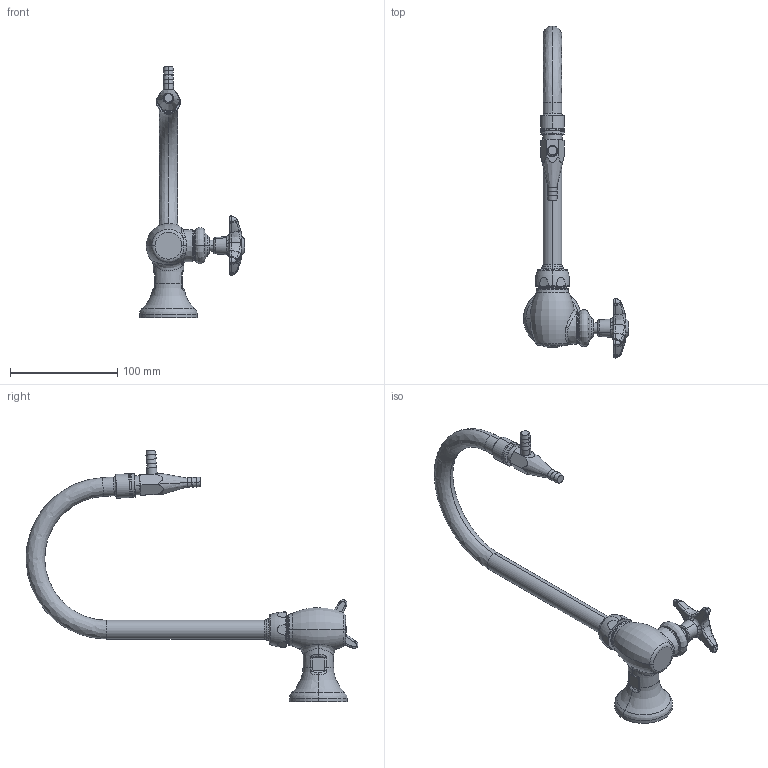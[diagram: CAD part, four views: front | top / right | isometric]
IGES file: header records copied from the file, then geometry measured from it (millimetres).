
Start section:  PTC IGES file: LWS4-A32-A.igs
Global section: file name: LWS4-A32-A.igs; native system: Creo Parametric by PTC Inc.; preprocessor: 2014500; author: usch_engrender; organization: Unknown; date: 20151207.111854; units: inch
Bounding box: 98.16 x 309.83 x 234.85 mm (x, y, z)
Volume: 261678.4 mm3; surface area: 49626.2 mm2
Topology: 1 solids, 2 shells, 307 faces, 689 edges, 403 vertices
Faces by surface type: bspline 190, revolution 117
